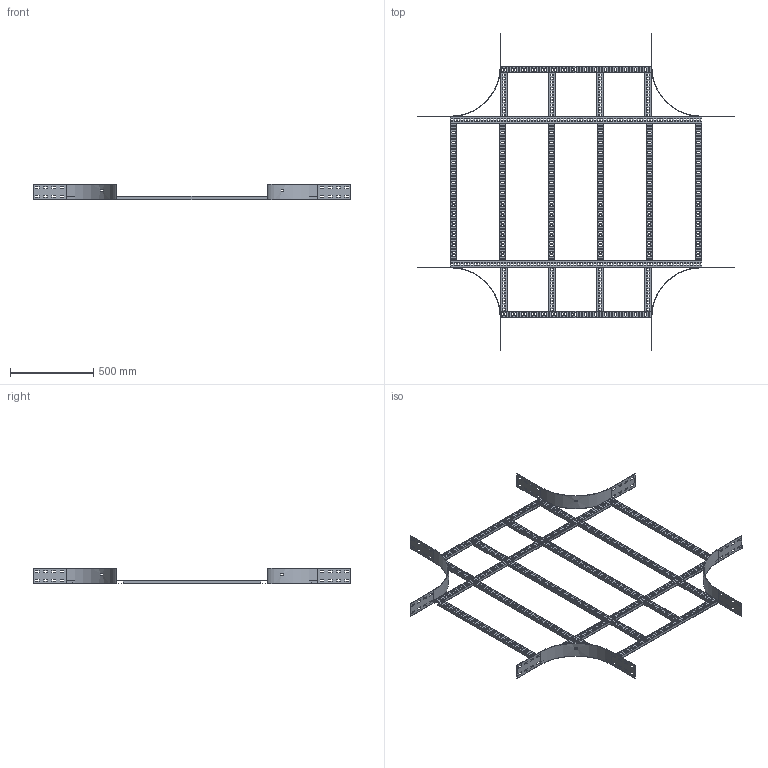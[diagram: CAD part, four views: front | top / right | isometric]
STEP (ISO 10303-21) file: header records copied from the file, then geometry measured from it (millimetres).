
FILE_DESCRIPTION(/* description */ ('','CAx-IF Rec.Pracs.---Representation and Presentation of Product Manufacturing Information (PMI)---4.0---2014-10-13'),/* implementation_level */ '2;1');
FILE_NAME(/* name */ 'Eurostrut_ECO100-900-300_Crossover for Cable Ladder ECL.step',/* time_stamp */ '2026-09-03T13:29:00+02:00',/* author */ (''),/* organization */ (''),/* preprocessor_version */ 'ST-DEVELOPER v20.1',/* originating_system */ 'Autodesk Revit 2027 27.2.0.39',/* authorisation */ '');
FILE_SCHEMA (('AP242_MANAGED_MODEL_BASED_3D_ENGINEERING_MIM_LF { 1 0 10303 442 2 1 4 }'));
Products named in the file (10): TopLevelAssembly; Sweep; Sweep_1; Sweep_2; Sweep_3; Eurostrut_Cable Ladder_Rung_With slots; Eurostrut_Cable Ladder_Rung_With slots_1; Eurostrut_Cable Ladder_Rung Array Straight_Slotted; Eurostrut_Cable Ladder_Rung Array Straight_Slotted_1; Eurostrut_Cable Ladder_Accessory End_54-94-142
Assembly tree (19 placements, depth 2):
  TopLevelAssembly
    Sweep
    Sweep_1
    Eurostrut_Cable Ladder_Rung_With slots  x2
    Eurostrut_Cable Ladder_Rung_With slots_1  x2
    Sweep_2
    Sweep_3
    Eurostrut_Cable Ladder_Rung Array Straight_Slotted
    Eurostrut_Cable Ladder_Rung Array Straight_Slotted_1  x2
    Eurostrut_Cable Ladder_Accessory End_54-94-142  x8
Bounding box: 1911 x 1911 x 94 mm (x, y, z)
Volume: 2393177.3 mm3; surface area: 2696671.6 mm2
Topology: 30 solids, 30 shells, 3036 faces, 8928 edges, 5952 vertices
Faces by surface type: plane 1772, bspline 1184, cylinder 80
Entity records: 91434 total; most frequent: CARTESIAN_POINT 37593, ORIENTED_EDGE 11616, DIRECTION 9934, EDGE_CURVE 5808, LINE 4004, VECTOR 4004, VERTEX_POINT 3872, AXIS2_PLACEMENT_3D 2965
